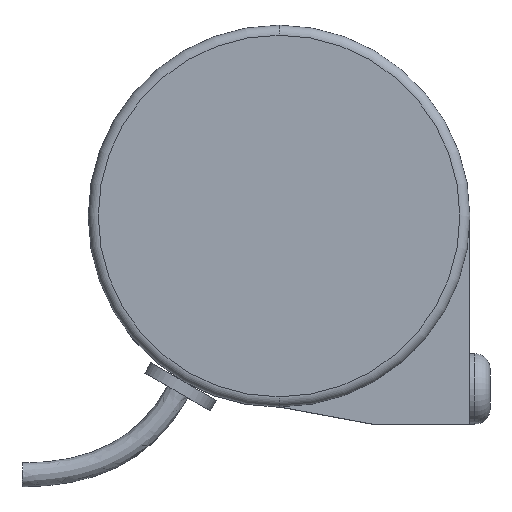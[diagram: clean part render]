
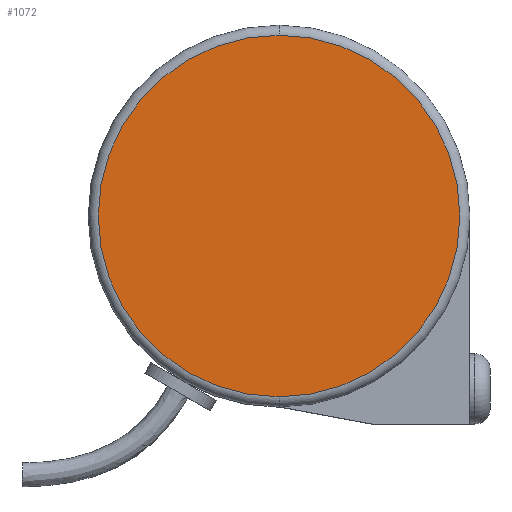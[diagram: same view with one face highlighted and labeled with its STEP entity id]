
A CAD part, top view. The second image highlights one B-rep face of the part: STEP entity #1072.
In plain terms, the highlighted planar face has unit normal (0, 0, 1) as drawn and (0, 1, 0) by its records, which use the part's own axes.
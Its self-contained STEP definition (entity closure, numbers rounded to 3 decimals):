
#6 = EDGE_CURVE ( 'NONE', #445, #407, #920, .T. ) ;
#112 = DIRECTION ( 'NONE',  ( 0., 1., 0. ) ) ;
#204 = AXIS2_PLACEMENT_3D ( 'NONE', #1247, #657, #763 ) ;
#212 = CARTESIAN_POINT ( 'NONE',  ( 0., 4.4, -36. ) ) ;
#244 = ORIENTED_EDGE ( 'NONE', *, *, #6, .T. ) ;
#256 = PLANE ( 'NONE',  #204 ) ;
#349 = CARTESIAN_POINT ( 'NONE',  ( 0., 4.4, 36. ) ) ;
#362 = DIRECTION ( 'NONE',  ( 0., 0., 1. ) ) ;
#407 = VERTEX_POINT ( 'NONE', #349 ) ;
#445 = VERTEX_POINT ( 'NONE', #212 ) ;
#455 = EDGE_CURVE ( 'NONE', #407, #445, #1286, .T. ) ;
#474 = DIRECTION ( 'NONE',  ( 0., 1., 0. ) ) ;
#505 = CARTESIAN_POINT ( 'NONE',  ( 0., 4.4, 0. ) ) ;
#657 = DIRECTION ( 'NONE',  ( 0., 1., 0. ) ) ;
#763 = DIRECTION ( 'NONE',  ( 0., 0., 1. ) ) ;
#884 = DIRECTION ( 'NONE',  ( 0., 0., 1. ) ) ;
#920 = CIRCLE ( 'NONE', #1249, 36. ) ;
#927 = EDGE_LOOP ( 'NONE', ( #1220, #244 ) ) ;
#1019 = AXIS2_PLACEMENT_3D ( 'NONE', #505, #112, #362 ) ;
#1054 = FACE_OUTER_BOUND ( 'NONE', #927, .T. ) ;
#1072 = ADVANCED_FACE ( 'NONE', ( #1054 ), #256, .T. ) ;
#1185 = CARTESIAN_POINT ( 'NONE',  ( 0., 4.4, 0. ) ) ;
#1220 = ORIENTED_EDGE ( 'NONE', *, *, #455, .T. ) ;
#1247 = CARTESIAN_POINT ( 'NONE',  ( 0., 4.4, 0. ) ) ;
#1249 = AXIS2_PLACEMENT_3D ( 'NONE', #1185, #474, #884 ) ;
#1286 = CIRCLE ( 'NONE', #1019, 36. ) ;
